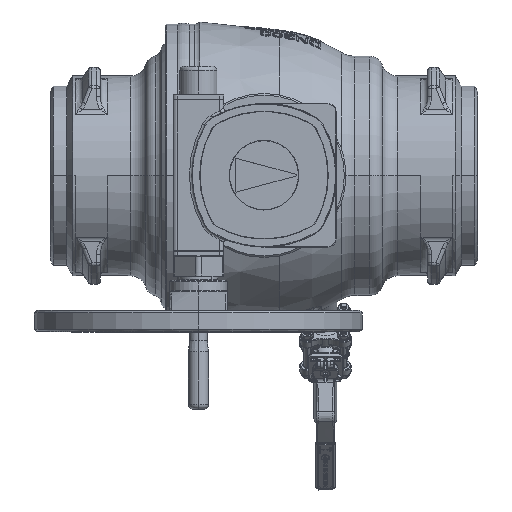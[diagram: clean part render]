
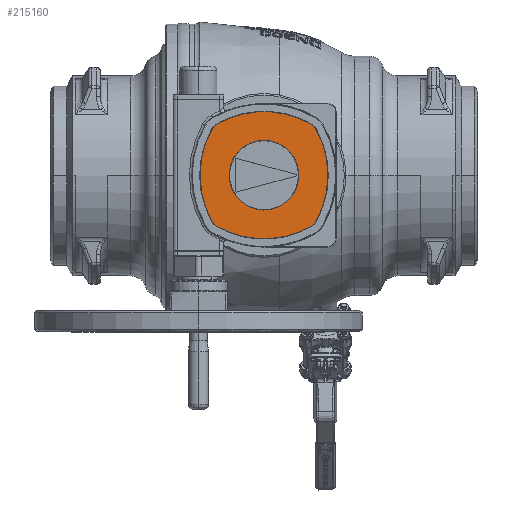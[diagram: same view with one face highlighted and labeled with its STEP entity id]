
A CAD part, top view. The second image highlights one B-rep face of the part: STEP entity #215160.
In plain terms, the highlighted planar face has unit normal (0, 0, 1).
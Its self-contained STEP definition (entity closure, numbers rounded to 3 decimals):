
#197475=CARTESIAN_POINT('',(0.,-37.5,190.));
#197476=DIRECTION('',(0.,0.,-1.));
#197477=DIRECTION('',(-0.502,0.865,0.));
#197478=AXIS2_PLACEMENT_3D('',#197475,#197476,#197477);
#197489=CARTESIAN_POINT('',(50.17,49.004,190.));
#197490=DIRECTION('',(0.,0.,1.));
#197491=DIRECTION('',(0.872,0.49,0.));
#197492=AXIS2_PLACEMENT_3D('',#197489,#197490,#197491);
#197503=CARTESIAN_POINT('',(-37.,0.,190.));
#197504=DIRECTION('',(0.,0.,-1.));
#197505=DIRECTION('',(0.872,0.49,0.));
#197506=AXIS2_PLACEMENT_3D('',#197503,#197504,#197505);
#197517=CARTESIAN_POINT('',(50.17,-49.004,190.));
#197518=DIRECTION('',(0.,0.,1.));
#197519=DIRECTION('',(0.502,-0.865,0.));
#197520=AXIS2_PLACEMENT_3D('',#197517,#197518,#197519);
#197531=CARTESIAN_POINT('',(0.,37.5,190.));
#197532=DIRECTION('',(0.,0.,-1.));
#197533=DIRECTION('',(0.502,-0.865,0.));
#197534=AXIS2_PLACEMENT_3D('',#197531,#197532,#197533);
#197545=CARTESIAN_POINT('',(-50.17,-49.004,190.));
#197546=DIRECTION('',(0.,0.,1.));
#197547=DIRECTION('',(-0.872,-0.49,0.));
#197548=AXIS2_PLACEMENT_3D('',#197545,#197546,#197547);
#197559=CARTESIAN_POINT('',(37.,0.,190.));
#197560=DIRECTION('',(0.,0.,-1.));
#197561=DIRECTION('',(-0.872,-0.49,0.));
#197562=AXIS2_PLACEMENT_3D('',#197559,#197560,#197561);
#197573=CARTESIAN_POINT('',(-50.17,49.004,190.));
#197574=DIRECTION('',(0.,0.,1.));
#197575=DIRECTION('',(-0.502,0.865,0.));
#197576=AXIS2_PLACEMENT_3D('',#197573,#197574,#197575);
#197578=CARTESIAN_POINT('',(0.,0.,190.));
#197579=DIRECTION('',(0.,0.,1.));
#197580=DIRECTION('',(-1.,0.,0.));
#197581=AXIS2_PLACEMENT_3D('',#197578,#197579,#197580);
#197583=CARTESIAN_POINT('',(0.,0.,190.));
#197584=DIRECTION('',(0.,0.,1.));
#197585=DIRECTION('',(1.,0.,0.));
#197586=AXIS2_PLACEMENT_3D('',#197583,#197584,#197585);
#202465=CARTESIAN_POINT('',(-42.5,0.,190.));
#202466=CARTESIAN_POINT('',(42.5,0.,190.));
#202467=VERTEX_POINT('',#202465);
#202468=VERTEX_POINT('',#202466);
#202469=CARTESIAN_POINT('',(57.695,-61.98,190.));
#202470=CARTESIAN_POINT('',(63.245,-56.355,190.));
#202471=VERTEX_POINT('',#202469);
#202472=VERTEX_POINT('',#202470);
#202473=CARTESIAN_POINT('',(63.245,56.355,190.));
#202474=VERTEX_POINT('',#202473);
#202475=CARTESIAN_POINT('',(57.695,61.98,190.));
#202476=VERTEX_POINT('',#202475);
#202477=CARTESIAN_POINT('',(-57.695,61.98,190.));
#202478=VERTEX_POINT('',#202477);
#202479=CARTESIAN_POINT('',(-63.245,56.355,190.));
#202480=VERTEX_POINT('',#202479);
#202481=CARTESIAN_POINT('',(-63.245,-56.355,190.));
#202482=VERTEX_POINT('',#202481);
#202483=CARTESIAN_POINT('',(-57.695,-61.98,190.));
#202484=VERTEX_POINT('',#202483);
#215139=CARTESIAN_POINT('',(0.,0.,190.));
#215140=DIRECTION('',(0.,0.,1.));
#215141=DIRECTION('',(1.,0.,0.));
#215142=AXIS2_PLACEMENT_3D('',#215139,#215140,#215141);
#215143=PLANE('',#215142);
#215144=ORIENTED_EDGE('',*,*,#215078,.F.);
#215145=ORIENTED_EDGE('',*,*,#215092,.T.);
#215146=ORIENTED_EDGE('',*,*,#215106,.F.);
#215147=ORIENTED_EDGE('',*,*,#215120,.T.);
#215148=ORIENTED_EDGE('',*,*,#215133,.F.);
#215149=ORIENTED_EDGE('',*,*,#215035,.T.);
#215150=ORIENTED_EDGE('',*,*,#215050,.F.);
#215151=ORIENTED_EDGE('',*,*,#215064,.T.);
#215152=EDGE_LOOP('',(#215144,#215145,#215146,#215147,#215148,#215149,#215150,
#215151));
#215153=FACE_OUTER_BOUND('',#215152,.F.);
#215155=ORIENTED_EDGE('',*,*,#215154,.T.);
#215157=ORIENTED_EDGE('',*,*,#215156,.T.);
#215158=EDGE_LOOP('',(#215155,#215157));
#215159=FACE_BOUND('',#215158,.F.);
#215160=ADVANCED_FACE('',(#215153,#215159),#215143,.T.);
#197479=CIRCLE('',#197478,115.);
#197493=CIRCLE('',#197492,15.);
#197507=CIRCLE('',#197506,115.);
#197521=CIRCLE('',#197520,15.);
#197535=CIRCLE('',#197534,115.);
#197549=CIRCLE('',#197548,15.);
#197563=CIRCLE('',#197562,115.);
#197577=CIRCLE('',#197576,15.);
#197582=CIRCLE('',#197581,42.5);
#197587=CIRCLE('',#197586,42.5);
#215035=EDGE_CURVE('',#202478,#202476,#197479,.T.);
#215050=EDGE_CURVE('',#202474,#202476,#197493,.T.);
#215064=EDGE_CURVE('',#202474,#202472,#197507,.T.);
#215078=EDGE_CURVE('',#202471,#202472,#197521,.T.);
#215092=EDGE_CURVE('',#202471,#202484,#197535,.T.);
#215106=EDGE_CURVE('',#202482,#202484,#197549,.T.);
#215120=EDGE_CURVE('',#202482,#202480,#197563,.T.);
#215133=EDGE_CURVE('',#202478,#202480,#197577,.T.);
#215154=EDGE_CURVE('',#202467,#202468,#197582,.T.);
#215156=EDGE_CURVE('',#202468,#202467,#197587,.T.);
